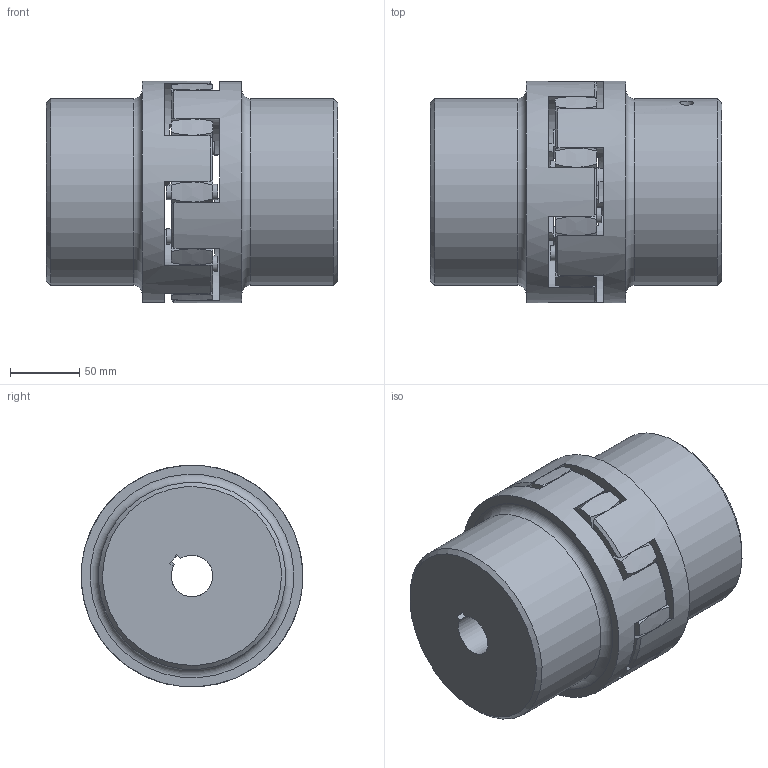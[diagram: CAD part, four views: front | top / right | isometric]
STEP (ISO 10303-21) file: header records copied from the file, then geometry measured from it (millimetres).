
FILE_DESCRIPTION(/* description */ (''),/* implementation_level */ '2;1');
FILE_NAME(/* name */ 'RP75-30-PF-30-PF',/* time_stamp */ '2024-01-05T15:31:40+01:00',/* author */ ('M. Horlacher'),/* organization */ (''),/* preprocessor_version */ 'ST-DEVELOPER v20',/* originating_system */ 'Autodesk Inventor 2024',/* authorisation */ '');
FILE_SCHEMA (('AUTOMOTIVE_DESIGN { 1 0 10303 214 3 1 1 }'));
Length unit declared in the file: millimetre
Products named in the file (4): RP STEP; RP75-Stern-92Shore; RP75 ø45H7-PF-GG; RP75 ø45H7-PF-GG_1
Assembly tree (3 placements, depth 2):
  RP STEP
    RP75-Stern-92Shore
    RP75 ø45H7-PF-GG
    RP75 ø45H7-PF-GG_1
Bounding box: 210 x 160 x 159.61 mm (x, y, z)
Volume: 2946826.9 mm3; surface area: 262477.1 mm2
Topology: 3 solids, 3 shells, 159 faces, 417 edges, 278 vertices
Faces by surface type: cylinder 59, plane 46, bspline 40, cone 12, torus 2
Full cylindrical faces by diameter (mm): 10 x2, 11 x10, 80 x1, 135 x2, 160 x2
Entity records: 6635 total; most frequent: CARTESIAN_POINT 2636, ORIENTED_EDGE 834, DIRECTION 787, EDGE_CURVE 417, AXIS2_PLACEMENT_3D 344, VERTEX_POINT 278, CIRCLE 194, EDGE_LOOP 179
